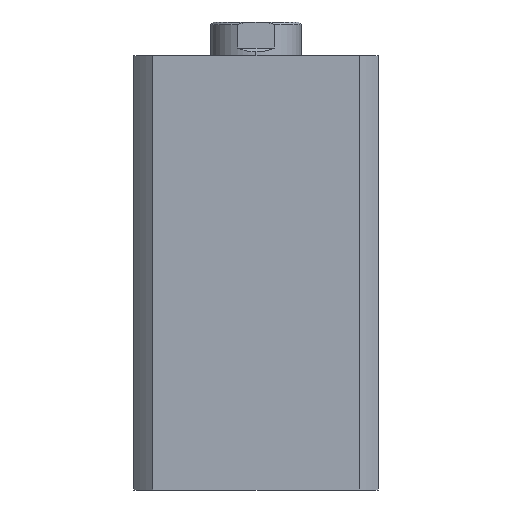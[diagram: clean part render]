
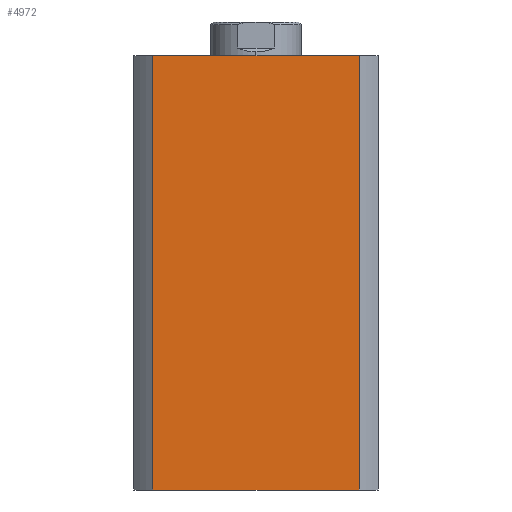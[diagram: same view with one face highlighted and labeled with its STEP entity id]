
A CAD part, left-side view. The second image highlights one B-rep face of the part: STEP entity #4972.
In plain terms, the highlighted planar face has unit normal (-1, 0, 0).
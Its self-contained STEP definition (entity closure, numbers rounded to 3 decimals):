
#168 = VERTEX_POINT ( 'NONE', #1124 ) ;
#169 = VERTEX_POINT ( 'NONE', #1125 ) ;
#188 = VERTEX_POINT ( 'NONE', #1144 ) ;
#189 = VERTEX_POINT ( 'NONE', #1145 ) ;
#470 = EDGE_LOOP ( 'NONE', ( #2029, #2030, #2031, #2032 ) ) ;
#1037 = LINE ( 'NONE', #1996, #1039 ) ;
#1039 = VECTOR ( 'NONE', #1991, 1000. ) ;
#1124 = CARTESIAN_POINT ( 'NONE',  ( -47., 39.664, 167. ) ) ;
#1125 = CARTESIAN_POINT ( 'NONE',  ( -47., -39.664, 167. ) ) ;
#1144 = CARTESIAN_POINT ( 'NONE',  ( -47., 39.664, 0. ) ) ;
#1145 = CARTESIAN_POINT ( 'NONE',  ( -47., -39.664, 0. ) ) ;
#1991 = DIRECTION ( 'NONE',  ( 0., -1., 0. ) ) ;
#1996 = CARTESIAN_POINT ( 'NONE',  ( -47., 0., 167. ) ) ;
#2029 = ORIENTED_EDGE ( 'NONE', *, *, #2359, .T. ) ;
#2030 = ORIENTED_EDGE ( 'NONE', *, *, #2360, .F. ) ;
#2031 = ORIENTED_EDGE ( 'NONE', *, *, #2325, .F. ) ;
#2032 = ORIENTED_EDGE ( 'NONE', *, *, #2358, .T. ) ;
#2325 = EDGE_CURVE ( 'NONE', #168, #169, #1037, .T. ) ;
#2358 = EDGE_CURVE ( 'NONE', #168, #188, #2952, .T. ) ;
#2359 = EDGE_CURVE ( 'NONE', #188, #189, #2950, .T. ) ;
#2360 = EDGE_CURVE ( 'NONE', #169, #189, #2955, .T. ) ;
#2950 = LINE ( 'NONE', #3472, #2956 ) ;
#2952 = LINE ( 'NONE', #3470, #2954 ) ;
#2954 = VECTOR ( 'NONE', #3477, 1000. ) ;
#2955 = LINE ( 'NONE', #3479, #2958 ) ;
#2956 = VECTOR ( 'NONE', #3478, 1000. ) ;
#2958 = VECTOR ( 'NONE', #3481, 1000. ) ;
#3183 = FACE_OUTER_BOUND ( 'NONE', #470, .T. ) ;
#3470 = CARTESIAN_POINT ( 'NONE',  ( -47., 39.664, 167. ) ) ;
#3472 = CARTESIAN_POINT ( 'NONE',  ( -47., 0., 0. ) ) ;
#3477 = DIRECTION ( 'NONE',  ( 0., 0., -1. ) ) ;
#3478 = DIRECTION ( 'NONE',  ( 0., -1., 0. ) ) ;
#3479 = CARTESIAN_POINT ( 'NONE',  ( -47., -39.664, 167. ) ) ;
#3481 = DIRECTION ( 'NONE',  ( 0., 0., -1. ) ) ;
#3741 = AXIS2_PLACEMENT_3D ( 'NONE', #4056, #4064, #4065 ) ;
#4056 = CARTESIAN_POINT ( 'NONE',  ( -47., 0., 167. ) ) ;
#4061 = PLANE ( 'NONE',  #3741 ) ;
#4064 = DIRECTION ( 'NONE',  ( 1., 0., 0. ) ) ;
#4065 = DIRECTION ( 'NONE',  ( 0., 0., -1. ) ) ;
#4972 = ADVANCED_FACE ( 'NONE', ( #3183 ), #4061, .F. ) ;
